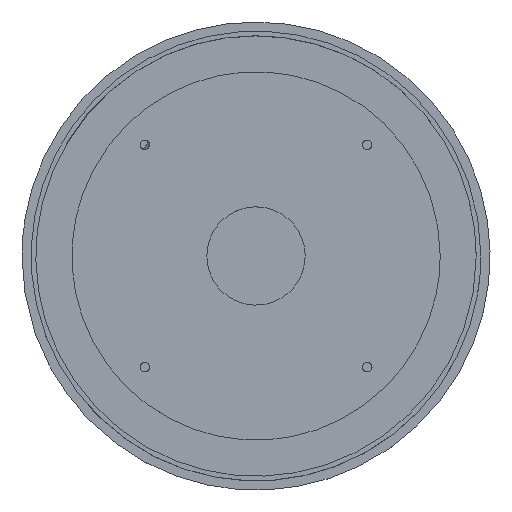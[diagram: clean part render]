
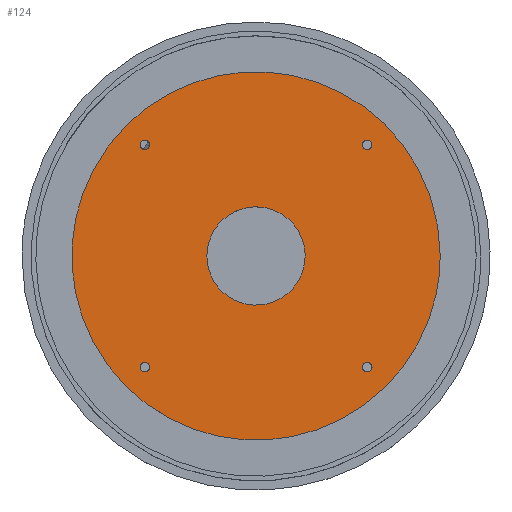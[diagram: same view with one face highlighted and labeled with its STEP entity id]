
A CAD part, top view. The second image highlights one B-rep face of the part: STEP entity #124.
In plain terms, the highlighted planar face has unit normal (0, 0, 1).
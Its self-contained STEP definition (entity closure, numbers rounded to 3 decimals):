
#82=FACE_BOUND('',#514,.T.);
#83=FACE_BOUND('',#515,.T.);
#84=FACE_BOUND('',#516,.T.);
#85=FACE_BOUND('',#517,.T.);
#86=FACE_BOUND('',#518,.T.);
#124=ADVANCED_FACE('',(#303,#82,#83,#84,#85,#86),#2530,.T.);
#303=FACE_OUTER_BOUND('',#513,.T.);
#513=EDGE_LOOP('',(#804));
#514=EDGE_LOOP('',(#805));
#515=EDGE_LOOP('',(#806));
#516=EDGE_LOOP('',(#807));
#517=EDGE_LOOP('',(#808));
#518=EDGE_LOOP('',(#809));
#804=ORIENTED_EDGE('',*,*,#1504,.T.);
#805=ORIENTED_EDGE('',*,*,#1507,.T.);
#806=ORIENTED_EDGE('',*,*,#1508,.F.);
#807=ORIENTED_EDGE('',*,*,#1511,.F.);
#808=ORIENTED_EDGE('',*,*,#1514,.F.);
#809=ORIENTED_EDGE('',*,*,#1517,.F.);
#1504=EDGE_CURVE('',#2268,#2268,#2016,.T.);
#1507=EDGE_CURVE('',#2270,#2270,#2019,.T.);
#1508=EDGE_CURVE('',#2272,#2272,#2020,.T.);
#1511=EDGE_CURVE('',#2273,#2273,#2022,.T.);
#1514=EDGE_CURVE('',#2275,#2275,#2024,.T.);
#1517=EDGE_CURVE('',#2277,#2277,#2026,.T.);
#2016=(
BOUNDED_CURVE()
B_SPLINE_CURVE(2,(#4653,#4654,#4655,#4656,#4657,#4658,#4659,#4660,#4661),
 .UNSPECIFIED.,.T.,.F.)
B_SPLINE_CURVE_WITH_KNOTS((3,2,2,2,3),(0.,188.496,376.991,
565.487,753.982),.UNSPECIFIED.)
CURVE()
GEOMETRIC_REPRESENTATION_ITEM()
RATIONAL_B_SPLINE_CURVE((1.,0.707,1.,0.707,1.,0.707,
1.,0.707,1.))
REPRESENTATION_ITEM('')
);
#2019=(
BOUNDED_CURVE()
B_SPLINE_CURVE(2,(#4673,#4674,#4675,#4676,#4677,#4678,#4679,#4680,#4681),
 .UNSPECIFIED.,.T.,.F.)
B_SPLINE_CURVE_WITH_KNOTS((3,2,2,2,3),(753.982,804.248,
854.513,904.779,955.044),.UNSPECIFIED.)
CURVE()
GEOMETRIC_REPRESENTATION_ITEM()
RATIONAL_B_SPLINE_CURVE((1.,0.707,1.,0.707,1.,0.707,
1.,0.707,1.))
REPRESENTATION_ITEM('')
);
#2020=(
BOUNDED_CURVE()
B_SPLINE_CURVE(2,(#4682,#4683,#4684,#4685,#4686,#4687,#4688,#4689,#4690),
 .UNSPECIFIED.,.T.,.F.)
B_SPLINE_CURVE_WITH_KNOTS((3,2,2,2,3),(0.,4.869,9.739,
14.608,19.478),.UNSPECIFIED.)
CURVE()
GEOMETRIC_REPRESENTATION_ITEM()
RATIONAL_B_SPLINE_CURVE((1.,0.707,1.,0.707,1.,0.707,
1.,0.707,1.))
REPRESENTATION_ITEM('')
);
#2022=(
BOUNDED_CURVE()
B_SPLINE_CURVE(2,(#4702,#4703,#4704,#4705,#4706,#4707,#4708,#4709,#4710),
 .UNSPECIFIED.,.T.,.F.)
B_SPLINE_CURVE_WITH_KNOTS((3,2,2,2,3),(0.,4.869,9.739,
14.608,19.478),.UNSPECIFIED.)
CURVE()
GEOMETRIC_REPRESENTATION_ITEM()
RATIONAL_B_SPLINE_CURVE((1.,0.707,1.,0.707,1.,0.707,
1.,0.707,1.))
REPRESENTATION_ITEM('')
);
#2024=(
BOUNDED_CURVE()
B_SPLINE_CURVE(2,(#4722,#4723,#4724,#4725,#4726,#4727,#4728,#4729,#4730),
 .UNSPECIFIED.,.T.,.F.)
B_SPLINE_CURVE_WITH_KNOTS((3,2,2,2,3),(0.,4.869,9.739,
14.608,19.478),.UNSPECIFIED.)
CURVE()
GEOMETRIC_REPRESENTATION_ITEM()
RATIONAL_B_SPLINE_CURVE((1.,0.707,1.,0.707,1.,0.707,
1.,0.707,1.))
REPRESENTATION_ITEM('')
);
#2026=(
BOUNDED_CURVE()
B_SPLINE_CURVE(2,(#4742,#4743,#4744,#4745,#4746,#4747,#4748,#4749,#4750),
 .UNSPECIFIED.,.T.,.F.)
B_SPLINE_CURVE_WITH_KNOTS((3,2,2,2,3),(0.,4.869,9.739,
14.608,19.478),.UNSPECIFIED.)
CURVE()
GEOMETRIC_REPRESENTATION_ITEM()
RATIONAL_B_SPLINE_CURVE((1.,0.707,1.,0.707,1.,0.707,
1.,0.707,1.))
REPRESENTATION_ITEM('')
);
#2268=VERTEX_POINT('',#4603);
#2270=VERTEX_POINT('',#4605);
#2272=VERTEX_POINT('',#4607);
#2273=VERTEX_POINT('',#4608);
#2275=VERTEX_POINT('',#4610);
#2277=VERTEX_POINT('',#4612);
#2530=PLANE('',#2777);
#2777=AXIS2_PLACEMENT_3D('',#4062,#2925,$);
#2925=DIRECTION('',(0.,0.,1.));
#4062=CARTESIAN_POINT('',(-150.,-150.,56.));
#4603=CARTESIAN_POINT('',(120.,0.,56.));
#4605=CARTESIAN_POINT('',(32.,0.,56.));
#4607=CARTESIAN_POINT('',(74.67,-70.286,56.));
#4608=CARTESIAN_POINT('',(70.286,74.67,56.));
#4610=CARTESIAN_POINT('',(-74.67,70.286,56.));
#4612=CARTESIAN_POINT('',(-70.286,-74.67,56.));
#4653=CARTESIAN_POINT('',(120.,0.,56.));
#4654=CARTESIAN_POINT('',(120.,120.,56.));
#4655=CARTESIAN_POINT('',(0.,120.,56.));
#4656=CARTESIAN_POINT('',(-120.,120.,56.));
#4657=CARTESIAN_POINT('',(-120.,0.,56.));
#4658=CARTESIAN_POINT('',(-120.,-120.,56.));
#4659=CARTESIAN_POINT('',(0.,-120.,56.));
#4660=CARTESIAN_POINT('',(120.,-120.,56.));
#4661=CARTESIAN_POINT('',(120.,0.,56.));
#4673=CARTESIAN_POINT('',(32.,0.,56.));
#4674=CARTESIAN_POINT('',(32.,-32.,56.));
#4675=CARTESIAN_POINT('',(0.,-32.,56.));
#4676=CARTESIAN_POINT('',(-32.,-32.,56.));
#4677=CARTESIAN_POINT('',(-32.,0.,56.));
#4678=CARTESIAN_POINT('',(-32.,32.,56.));
#4679=CARTESIAN_POINT('',(0.,32.,56.));
#4680=CARTESIAN_POINT('',(32.,32.,56.));
#4681=CARTESIAN_POINT('',(32.,0.,56.));
#4682=CARTESIAN_POINT('',(74.67,-70.286,56.));
#4683=CARTESIAN_POINT('',(72.478,-68.094,56.));
#4684=CARTESIAN_POINT('',(70.286,-70.286,56.));
#4685=CARTESIAN_POINT('',(68.094,-72.478,56.));
#4686=CARTESIAN_POINT('',(70.286,-74.67,56.));
#4687=CARTESIAN_POINT('',(72.478,-76.863,56.));
#4688=CARTESIAN_POINT('',(74.67,-74.67,56.));
#4689=CARTESIAN_POINT('',(76.863,-72.478,56.));
#4690=CARTESIAN_POINT('',(74.67,-70.286,56.));
#4702=CARTESIAN_POINT('',(70.286,74.67,56.));
#4703=CARTESIAN_POINT('',(68.094,72.478,56.));
#4704=CARTESIAN_POINT('',(70.286,70.286,56.));
#4705=CARTESIAN_POINT('',(72.478,68.094,56.));
#4706=CARTESIAN_POINT('',(74.67,70.286,56.));
#4707=CARTESIAN_POINT('',(76.863,72.478,56.));
#4708=CARTESIAN_POINT('',(74.67,74.67,56.));
#4709=CARTESIAN_POINT('',(72.478,76.863,56.));
#4710=CARTESIAN_POINT('',(70.286,74.67,56.));
#4722=CARTESIAN_POINT('',(-74.67,70.286,56.));
#4723=CARTESIAN_POINT('',(-72.478,68.094,56.));
#4724=CARTESIAN_POINT('',(-70.286,70.286,56.));
#4725=CARTESIAN_POINT('',(-68.094,72.478,56.));
#4726=CARTESIAN_POINT('',(-70.286,74.67,56.));
#4727=CARTESIAN_POINT('',(-72.478,76.863,56.));
#4728=CARTESIAN_POINT('',(-74.67,74.67,56.));
#4729=CARTESIAN_POINT('',(-76.863,72.478,56.));
#4730=CARTESIAN_POINT('',(-74.67,70.286,56.));
#4742=CARTESIAN_POINT('',(-70.286,-74.67,56.));
#4743=CARTESIAN_POINT('',(-68.094,-72.478,56.));
#4744=CARTESIAN_POINT('',(-70.286,-70.286,56.));
#4745=CARTESIAN_POINT('',(-72.478,-68.094,56.));
#4746=CARTESIAN_POINT('',(-74.67,-70.286,56.));
#4747=CARTESIAN_POINT('',(-76.863,-72.478,56.));
#4748=CARTESIAN_POINT('',(-74.67,-74.67,56.));
#4749=CARTESIAN_POINT('',(-72.478,-76.863,56.));
#4750=CARTESIAN_POINT('',(-70.286,-74.67,56.));
